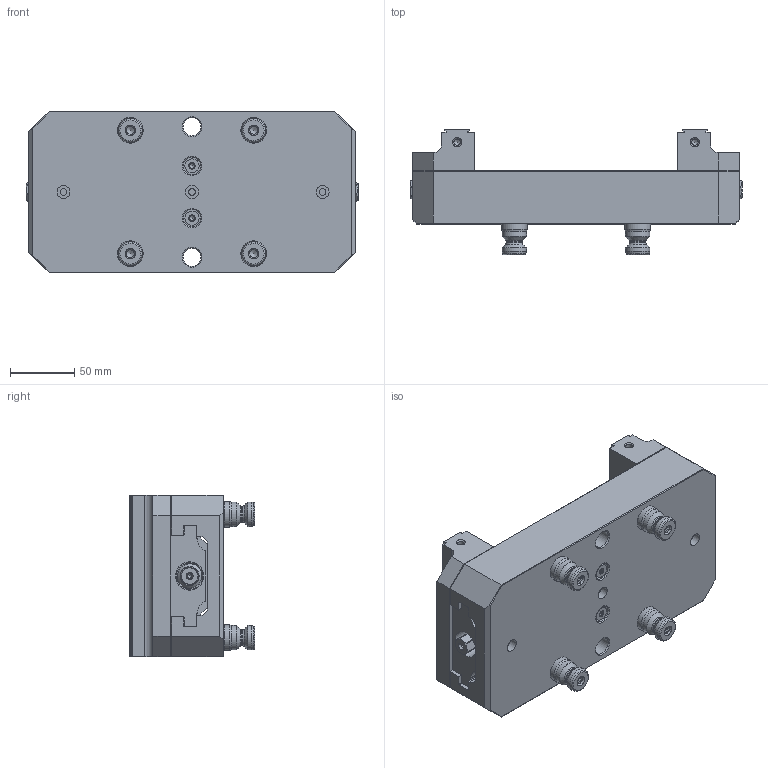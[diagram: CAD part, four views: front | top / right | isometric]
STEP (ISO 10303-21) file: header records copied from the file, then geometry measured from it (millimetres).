
FILE_DESCRIPTION (( 'STEP AP214' ), '1' );
FILE_NAME ('R96-V510X_WEBSITE.STEP', '2025-08-12T16:43:45', ( '' ), ( '' ), 'SwSTEP 2.0', 'SolidWorks 2024', '' );
FILE_SCHEMA (( 'AUTOMOTIVE_DESIGN' ));
Length unit declared in the file: inch
Products named in the file (16): V562X-2_WEBSITE_V562X-2L OP2; HW.76232_WEBSITE_91290A418; PS20F_WEBSITE; V562X-5_WEBSITE_V562X-5 OP 3; R96-V510X_WEBSITE; HW.M6C_WEBSITE; SB5VX_WEBSITE; M6X6MM.SHCS_WEBSITE_M6X6MM.SHCS; V562MX-3_WEBSITE_V562M-3; M10X25.FPSS_WEBSITE_NO HEX; M6X12.DP_WEBSITE_91595A440; V56124-6_WEBSITE_V56124-6; V510X-1_WEBSITE_V510X-1; PS20F-1_WEBSITE_HARD TURN; V562X-2_WEBSITE_V562X-2R OP2; V5104M-4_WEBSITE
Assembly tree (29 placements, depth 3):
  R96-V510X_WEBSITE
    V510X-1_WEBSITE_V510X-1
    V562X-2_WEBSITE_V562X-2R OP2
    V562X-2_WEBSITE_V562X-2L OP2
    V562MX-3_WEBSITE_V562M-3
    V5104M-4_WEBSITE
    V56124-6_WEBSITE_V56124-6  x2
    V562X-5_WEBSITE_V562X-5 OP 3  x2
    M6X12.DP_WEBSITE_91595A440  x2
    HW.76232_WEBSITE_91290A418  x8
    HW.M6C_WEBSITE
    M6X6MM.SHCS_WEBSITE_M6X6MM.SHCS
    SB5VX_WEBSITE  x2
    PS20F_WEBSITE  x4
      PS20F-1_WEBSITE_HARD TURN
      M10X25.FPSS_WEBSITE_NO HEX
Bounding box: 258.32 x 97.64 x 125.73 mm (x, y, z)
Volume: 1258470.2 mm3; surface area: 251432.7 mm2
Topology: 31 solids, 31 shells, 973 faces, 2309 edges, 1471 vertices
Faces by surface type: plane 537, cylinder 206, cone 181, torus 40, bspline 5, sphere 4
Full cylindrical faces by diameter (mm): 3.454 x1, 4.039 x2, 5 x9, 5.131 x1, 6 x5, 6.015 x2, 6.051 x2, 6.147 x4, 6.4 x1, 6.8 x8, 7.112 x1, 7.925 x2, 7.95 x2, 8 x16, 8.5 x8, 9 x8, 10 x9, 10.013 x3, 10.033 x1, 10.5 x1, 11 x2, 12.497 x4, 13 x8, 13.487 x2, 13.5 x8, 13.894 x2, 15.992 x4, 16.015 x4, 16.256 x2, 17.462 x2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
Entity records: 19853 total; most frequent: CARTESIAN_POINT 3575, DIRECTION 2621, ORIENTED_EDGE 2304, EDGE_CURVE 1152, AXIS2_PLACEMENT_3D 985, VERTEX_POINT 839, EDGE_LOOP 819, FACE_OUTER_BOUND 670
